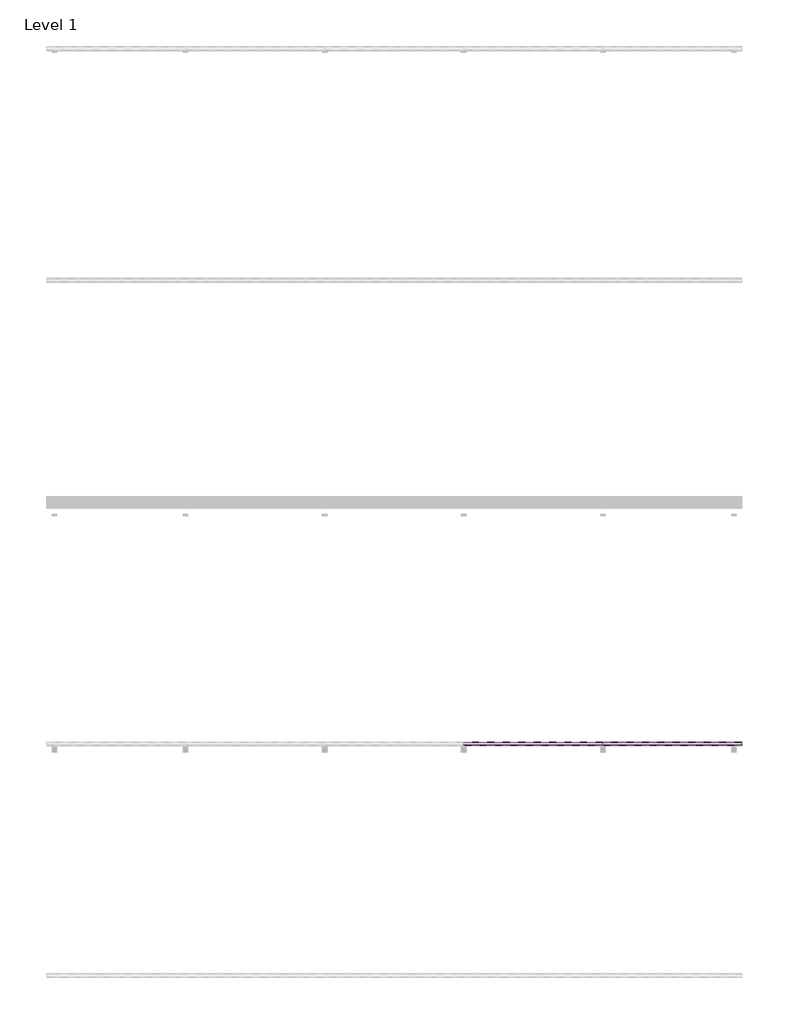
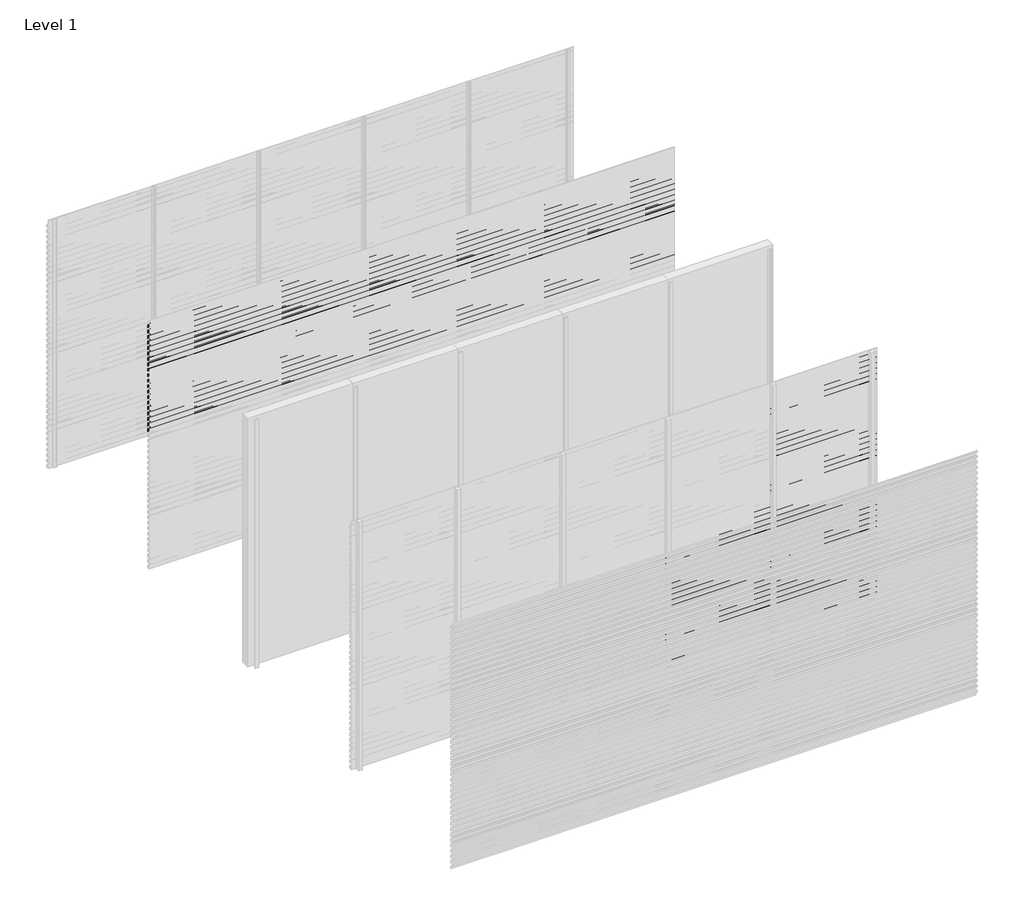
# One storey, part 18 of 33: 88 proxies.
"""IFC4 building model written with IfcOpenShell, lengths in millimetres."""

from ifc_helpers import new_model, si_unit, frame, origin, place, context, project, spatial, polyline, outline, extrude, element, save

model = new_model("IFC4")

# Units and contexts
model_context = context("Model", 3, world=origin())
ifc_project = project(units=[si_unit("LENGTHUNIT", "METRE", prefix="MILLI")], contexts=[model_context])

# Site, building, storey
site = spatial("IfcSite", under=ifc_project)
building = spatial("IfcBuilding", under=site)
storey = spatial("IfcBuildingStorey", under=building, Name="Level 1", Elevation=0.0)

# Proxies
placement = place(None, origin())
element("IfcBuildingElementProxy", 1, Name="Wall Sweeps", at=placement, inside=storey, context=model_context, shape_type="SweptSolid", body=[
    extrude(outline(polyline([(-25967.0, 2930.0), (-25967.0, 2897.0), (-25968.25, 2897.7216933), (-25968.25, 2929.2872415), (-25998.0, 2950.0588647), (-25998.0, 2970.0), (-25996.75, 2970.0), (-25996.75, 2950.7716232), (-25967.0, 2930.0)])), frame((0.0, 0.0, 0.0), z_axis=(1.0, 0.0, 0.0), x_axis=(0.0, 1.0, 0.0)), (0.0, 0.0, 1.0), 6000.0),
])
element("IfcBuildingElementProxy", 2, Name="Wall Sweeps", at=placement, inside=storey, context=model_context, shape_type="SweptSolid", body=[
    extrude(outline(polyline([(-25967.0, 2864.0), (-25967.0, 2831.0), (-25968.25, 2831.7216933), (-25968.25, 2863.2872415), (-25998.0, 2884.0588647), (-25998.0, 2904.0), (-25996.75, 2904.0), (-25996.75, 2884.7716232), (-25967.0, 2864.0)])), frame((0.0, 0.0, 0.0), z_axis=(1.0, 0.0, 0.0), x_axis=(0.0, 1.0, 0.0)), (0.0, 0.0, 1.0), 6000.0),
])
element("IfcBuildingElementProxy", 3, Name="Wall Sweeps", at=placement, inside=storey, context=model_context, shape_type="SweptSolid", body=[
    extrude(outline(polyline([(-25967.0, 2798.0), (-25967.0, 2765.0), (-25968.25, 2765.7216933), (-25968.25, 2797.2872415), (-25998.0, 2818.0588647), (-25998.0, 2838.0), (-25996.75, 2838.0), (-25996.75, 2818.7716232), (-25967.0, 2798.0)])), frame((0.0, 0.0, 0.0), z_axis=(1.0, 0.0, 0.0), x_axis=(0.0, 1.0, 0.0)), (0.0, 0.0, 1.0), 6000.0),
])
element("IfcBuildingElementProxy", 4, Name="Wall Sweeps", at=placement, inside=storey, context=model_context, shape_type="SweptSolid", body=[
    extrude(outline(polyline([(-25967.0, 2732.0), (-25967.0, 2699.0), (-25968.25, 2699.7216933), (-25968.25, 2731.2872415), (-25998.0, 2752.0588647), (-25998.0, 2772.0), (-25996.75, 2772.0), (-25996.75, 2752.7716232), (-25967.0, 2732.0)])), frame((0.0, 0.0, 0.0), z_axis=(1.0, 0.0, 0.0), x_axis=(0.0, 1.0, 0.0)), (0.0, 0.0, 1.0), 6000.0),
])
element("IfcBuildingElementProxy", 5, Name="Wall Sweeps", at=placement, inside=storey, context=model_context, shape_type="SweptSolid", body=[
    extrude(outline(polyline([(-25967.0, 2666.0), (-25967.0, 2633.0), (-25968.25, 2633.7216933), (-25968.25, 2665.2872415), (-25998.0, 2686.0588647), (-25998.0, 2706.0), (-25996.75, 2706.0), (-25996.75, 2686.7716232), (-25967.0, 2666.0)])), frame((0.0, 0.0, 0.0), z_axis=(1.0, 0.0, 0.0), x_axis=(0.0, 1.0, 0.0)), (0.0, 0.0, 1.0), 6000.0),
])
element("IfcBuildingElementProxy", 6, Name="Wall Sweeps", at=placement, inside=storey, context=model_context, shape_type="SweptSolid", body=[
    extrude(outline(polyline([(-25967.0, 2600.0), (-25967.0, 2567.0), (-25968.25, 2567.7216933), (-25968.25, 2599.2872415), (-25998.0, 2620.0588647), (-25998.0, 2640.0), (-25996.75, 2640.0), (-25996.75, 2620.7716232), (-25967.0, 2600.0)])), frame((0.0, 0.0, 0.0), z_axis=(1.0, 0.0, 0.0), x_axis=(0.0, 1.0, 0.0)), (0.0, 0.0, 1.0), 6000.0),
])
element("IfcBuildingElementProxy", 7, Name="Wall Sweeps", at=placement, inside=storey, context=model_context, shape_type="SweptSolid", body=[
    extrude(outline(polyline([(-25967.0, 2534.0), (-25967.0, 2501.0), (-25968.25, 2501.7216933), (-25968.25, 2533.2872415), (-25998.0, 2554.0588647), (-25998.0, 2574.0), (-25996.75, 2574.0), (-25996.75, 2554.7716232), (-25967.0, 2534.0)])), frame((0.0, 0.0, 0.0), z_axis=(1.0, 0.0, 0.0), x_axis=(0.0, 1.0, 0.0)), (0.0, 0.0, 1.0), 6000.0),
])
element("IfcBuildingElementProxy", 8, Name="Wall Sweeps", at=placement, inside=storey, context=model_context, shape_type="SweptSolid", body=[
    extrude(outline(polyline([(-25967.0, 2468.0), (-25967.0, 2435.0), (-25968.25, 2435.7216933), (-25968.25, 2467.2872415), (-25998.0, 2488.0588647), (-25998.0, 2508.0), (-25996.75, 2508.0), (-25996.75, 2488.7716232), (-25967.0, 2468.0)])), frame((0.0, 0.0, 0.0), z_axis=(1.0, 0.0, 0.0), x_axis=(0.0, 1.0, 0.0)), (0.0, 0.0, 1.0), 6000.0),
])
element("IfcBuildingElementProxy", 9, Name="Wall Sweeps", at=placement, inside=storey, context=model_context, shape_type="SweptSolid", body=[
    extrude(outline(polyline([(-25967.0, 2402.0), (-25967.0, 2369.0), (-25968.25, 2369.7216933), (-25968.25, 2401.2872415), (-25998.0, 2422.0588647), (-25998.0, 2442.0), (-25996.75, 2442.0), (-25996.75, 2422.7716232), (-25967.0, 2402.0)])), frame((0.0, 0.0, 0.0), z_axis=(1.0, 0.0, 0.0), x_axis=(0.0, 1.0, 0.0)), (0.0, 0.0, 1.0), 6000.0),
])
element("IfcBuildingElementProxy", 10, Name="Wall Sweeps", at=placement, inside=storey, context=model_context, shape_type="SweptSolid", body=[
    extrude(outline(polyline([(-25967.0, 2336.0), (-25967.0, 2303.0), (-25968.25, 2303.7216933), (-25968.25, 2335.2872415), (-25998.0, 2356.0588647), (-25998.0, 2376.0), (-25996.75, 2376.0), (-25996.75, 2356.7716232), (-25967.0, 2336.0)])), frame((0.0, 0.0, 0.0), z_axis=(1.0, 0.0, 0.0), x_axis=(0.0, 1.0, 0.0)), (0.0, 0.0, 1.0), 6000.0),
])
element("IfcBuildingElementProxy", 11, Name="Wall Sweeps", at=placement, inside=storey, context=model_context, shape_type="SweptSolid", body=[
    extrude(outline(polyline([(-25967.0, 2270.0), (-25967.0, 2237.0), (-25968.25, 2237.7216933), (-25968.25, 2269.2872415), (-25998.0, 2290.0588647), (-25998.0, 2310.0), (-25996.75, 2310.0), (-25996.75, 2290.7716232), (-25967.0, 2270.0)])), frame((0.0, 0.0, 0.0), z_axis=(1.0, 0.0, 0.0), x_axis=(0.0, 1.0, 0.0)), (0.0, 0.0, 1.0), 6000.0),
])
element("IfcBuildingElementProxy", 12, Name="Wall Sweeps", at=placement, inside=storey, context=model_context, shape_type="SweptSolid", body=[
    extrude(outline(polyline([(-25967.0, 2204.0), (-25967.0, 2171.0), (-25968.25, 2171.7216933), (-25968.25, 2203.2872415), (-25998.0, 2224.0588647), (-25998.0, 2244.0), (-25996.75, 2244.0), (-25996.75, 2224.7716232), (-25967.0, 2204.0)])), frame((0.0, 0.0, 0.0), z_axis=(1.0, 0.0, 0.0), x_axis=(0.0, 1.0, 0.0)), (0.0, 0.0, 1.0), 6000.0),
])
element("IfcBuildingElementProxy", 13, Name="Wall Sweeps", at=placement, inside=storey, context=model_context, shape_type="SweptSolid", body=[
    extrude(outline(polyline([(-25967.0, 2138.0), (-25967.0, 2105.0), (-25968.25, 2105.7216933), (-25968.25, 2137.2872415), (-25998.0, 2158.0588647), (-25998.0, 2178.0), (-25996.75, 2178.0), (-25996.75, 2158.7716232), (-25967.0, 2138.0)])), frame((0.0, 0.0, 0.0), z_axis=(1.0, 0.0, 0.0), x_axis=(0.0, 1.0, 0.0)), (0.0, 0.0, 1.0), 6000.0),
])
element("IfcBuildingElementProxy", 14, Name="Wall Sweeps", at=placement, inside=storey, context=model_context, shape_type="SweptSolid", body=[
    extrude(outline(polyline([(-25967.0, 2072.0), (-25967.0, 2039.0), (-25968.25, 2039.7216933), (-25968.25, 2071.2872415), (-25998.0, 2092.0588647), (-25998.0, 2112.0), (-25996.75, 2112.0), (-25996.75, 2092.7716232), (-25967.0, 2072.0)])), frame((0.0, 0.0, 0.0), z_axis=(1.0, 0.0, 0.0), x_axis=(0.0, 1.0, 0.0)), (0.0, 0.0, 1.0), 6000.0),
])
element("IfcBuildingElementProxy", 15, Name="Wall Sweeps", at=placement, inside=storey, context=model_context, shape_type="SweptSolid", body=[
    extrude(outline(polyline([(-25967.0, 2006.0), (-25967.0, 1973.0), (-25968.25, 1973.7216933), (-25968.25, 2005.2872415), (-25998.0, 2026.0588647), (-25998.0, 2046.0), (-25996.75, 2046.0), (-25996.75, 2026.7716232), (-25967.0, 2006.0)])), frame((0.0, 0.0, 0.0), z_axis=(1.0, 0.0, 0.0), x_axis=(0.0, 1.0, 0.0)), (0.0, 0.0, 1.0), 6000.0),
])
element("IfcBuildingElementProxy", 16, Name="Wall Sweeps", at=placement, inside=storey, context=model_context, shape_type="SweptSolid", body=[
    extrude(outline(polyline([(-25967.0, 1940.0), (-25967.0, 1907.0), (-25968.25, 1907.7216933), (-25968.25, 1939.2872415), (-25998.0, 1960.0588647), (-25998.0, 1980.0), (-25996.75, 1980.0), (-25996.75, 1960.7716232), (-25967.0, 1940.0)])), frame((0.0, 0.0, 0.0), z_axis=(1.0, 0.0, 0.0), x_axis=(0.0, 1.0, 0.0)), (0.0, 0.0, 1.0), 6000.0),
])
element("IfcBuildingElementProxy", 17, Name="Wall Sweeps", at=placement, inside=storey, context=model_context, shape_type="SweptSolid", body=[
    extrude(outline(polyline([(-25967.0, 1874.0), (-25967.0, 1841.0), (-25968.25, 1841.7216933), (-25968.25, 1873.2872415), (-25998.0, 1894.0588647), (-25998.0, 1914.0), (-25996.75, 1914.0), (-25996.75, 1894.7716232), (-25967.0, 1874.0)])), frame((0.0, 0.0, 0.0), z_axis=(1.0, 0.0, 0.0), x_axis=(0.0, 1.0, 0.0)), (0.0, 0.0, 1.0), 6000.0),
])
element("IfcBuildingElementProxy", 18, Name="Wall Sweeps", at=placement, inside=storey, context=model_context, shape_type="SweptSolid", body=[
    extrude(outline(polyline([(-25967.0, 1808.0), (-25967.0, 1775.0), (-25968.25, 1775.7216933), (-25968.25, 1807.2872415), (-25998.0, 1828.0588647), (-25998.0, 1848.0), (-25996.75, 1848.0), (-25996.75, 1828.7716232), (-25967.0, 1808.0)])), frame((0.0, 0.0, 0.0), z_axis=(1.0, 0.0, 0.0), x_axis=(0.0, 1.0, 0.0)), (0.0, 0.0, 1.0), 6000.0),
])
element("IfcBuildingElementProxy", 19, Name="Wall Sweeps", at=placement, inside=storey, context=model_context, shape_type="SweptSolid", body=[
    extrude(outline(polyline([(-25967.0, 1742.0), (-25967.0, 1709.0), (-25968.25, 1709.7216933), (-25968.25, 1741.2872415), (-25998.0, 1762.0588647), (-25998.0, 1782.0), (-25996.75, 1782.0), (-25996.75, 1762.7716232), (-25967.0, 1742.0)])), frame((0.0, 0.0, 0.0), z_axis=(1.0, 0.0, 0.0), x_axis=(0.0, 1.0, 0.0)), (0.0, 0.0, 1.0), 6000.0),
])
element("IfcBuildingElementProxy", 20, Name="Wall Sweeps", at=placement, inside=storey, context=model_context, shape_type="SweptSolid", body=[
    extrude(outline(polyline([(-25967.0, 1676.0), (-25967.0, 1643.0), (-25968.25, 1643.7216933), (-25968.25, 1675.2872415), (-25998.0, 1696.0588647), (-25998.0, 1716.0), (-25996.75, 1716.0), (-25996.75, 1696.7716232), (-25967.0, 1676.0)])), frame((0.0, 0.0, 0.0), z_axis=(1.0, 0.0, 0.0), x_axis=(0.0, 1.0, 0.0)), (0.0, 0.0, 1.0), 6000.0),
])
element("IfcBuildingElementProxy", 21, Name="Wall Sweeps", at=placement, inside=storey, context=model_context, shape_type="SweptSolid", body=[
    extrude(outline(polyline([(-29967.0, 1478.0), (-29967.0, 1445.0), (-29968.25, 1445.7216933), (-29968.25, 1477.2872415), (-29998.0, 1498.0588647), (-29998.0, 1518.0), (-29996.75, 1518.0), (-29996.75, 1498.7716232), (-29967.0, 1478.0)])), frame((3600.0, 0.0, 0.0), z_axis=(1.0, 0.0, 0.0), x_axis=(0.0, 1.0, 0.0)), (0.0, 0.0, 1.0), 1200.0),
])
element("IfcBuildingElementProxy", 22, Name="Wall Sweeps", at=placement, inside=storey, context=model_context, shape_type="SweptSolid", body=[
    extrude(outline(polyline([(-29967.0, 1412.0), (-29967.0, 1379.0), (-29968.25, 1379.7216933), (-29968.25, 1411.2872415), (-29998.0, 1432.0588647), (-29998.0, 1452.0), (-29996.75, 1452.0), (-29996.75, 1432.7716232), (-29967.0, 1412.0)])), frame((3600.0, 0.0, 0.0), z_axis=(1.0, 0.0, 0.0), x_axis=(0.0, 1.0, 0.0)), (0.0, 0.0, 1.0), 1200.0),
])
element("IfcBuildingElementProxy", 23, Name="Wall Sweeps", at=placement, inside=storey, context=model_context, shape_type="SweptSolid", body=[
    extrude(outline(polyline([(-29967.0, 1346.0), (-29967.0, 1313.0), (-29968.25, 1313.7216933), (-29968.25, 1345.2872415), (-29998.0, 1366.0588647), (-29998.0, 1386.0), (-29996.75, 1386.0), (-29996.75, 1366.7716232), (-29967.0, 1346.0)])), frame((3600.0, 0.0, 0.0), z_axis=(1.0, 0.0, 0.0), x_axis=(0.0, 1.0, 0.0)), (0.0, 0.0, 1.0), 1200.0),
])
element("IfcBuildingElementProxy", 24, Name="Wall Sweeps", at=placement, inside=storey, context=model_context, shape_type="SweptSolid", body=[
    extrude(outline(polyline([(-29967.0, 1280.0), (-29967.0, 1247.0), (-29968.25, 1247.7216933), (-29968.25, 1279.2872415), (-29998.0, 1300.0588647), (-29998.0, 1320.0), (-29996.75, 1320.0), (-29996.75, 1300.7716232), (-29967.0, 1280.0)])), frame((3600.0, 0.0, 0.0), z_axis=(1.0, 0.0, 0.0), x_axis=(0.0, 1.0, 0.0)), (0.0, 0.0, 1.0), 1200.0),
])
element("IfcBuildingElementProxy", 25, Name="Wall Sweeps", at=placement, inside=storey, context=model_context, shape_type="SweptSolid", body=[
    extrude(outline(polyline([(-29967.0, 1214.0), (-29967.0, 1181.0), (-29968.25, 1181.7216933), (-29968.25, 1213.2872415), (-29998.0, 1234.0588647), (-29998.0, 1254.0), (-29996.75, 1254.0), (-29996.75, 1234.7716232), (-29967.0, 1214.0)])), frame((3600.0, 0.0, 0.0), z_axis=(1.0, 0.0, 0.0), x_axis=(0.0, 1.0, 0.0)), (0.0, 0.0, 1.0), 1200.0),
])
element("IfcBuildingElementProxy", 26, Name="Wall Sweeps", at=placement, inside=storey, context=model_context, shape_type="SweptSolid", body=[
    extrude(outline(polyline([(-29967.0, 1148.0), (-29967.0, 1115.0), (-29968.25, 1115.7216933), (-29968.25, 1147.2872415), (-29998.0, 1168.0588647), (-29998.0, 1188.0), (-29996.75, 1188.0), (-29996.75, 1168.7716232), (-29967.0, 1148.0)])), frame((3600.0, 0.0, 0.0), z_axis=(1.0, 0.0, 0.0), x_axis=(0.0, 1.0, 0.0)), (0.0, 0.0, 1.0), 1200.0),
])
element("IfcBuildingElementProxy", 27, Name="Wall Sweeps", at=placement, inside=storey, context=model_context, shape_type="SweptSolid", body=[
    extrude(outline(polyline([(-29967.0, 1082.0), (-29967.0, 1049.0), (-29968.25, 1049.7216933), (-29968.25, 1081.2872415), (-29998.0, 1102.0588647), (-29998.0, 1122.0), (-29996.75, 1122.0), (-29996.75, 1102.7716232), (-29967.0, 1082.0)])), frame((3600.0, 0.0, 0.0), z_axis=(1.0, 0.0, 0.0), x_axis=(0.0, 1.0, 0.0)), (0.0, 0.0, 1.0), 1200.0),
])
element("IfcBuildingElementProxy", 28, Name="Wall Sweeps", at=placement, inside=storey, context=model_context, shape_type="SweptSolid", body=[
    extrude(outline(polyline([(-29967.0, 1016.0), (-29967.0, 983.0), (-29968.25, 983.7216933), (-29968.25, 1015.2872415), (-29998.0, 1036.0588647), (-29998.0, 1056.0), (-29996.75, 1056.0), (-29996.75, 1036.7716232), (-29967.0, 1016.0)])), frame((3600.0, 0.0, 0.0), z_axis=(1.0, 0.0, 0.0), x_axis=(0.0, 1.0, 0.0)), (0.0, 0.0, 1.0), 1200.0),
])
element("IfcBuildingElementProxy", 29, Name="Wall Sweeps", at=placement, inside=storey, context=model_context, shape_type="SweptSolid", body=[
    extrude(outline(polyline([(-29967.0, 950.0), (-29967.0, 917.0), (-29968.25, 917.7216933), (-29968.25, 949.2872415), (-29998.0, 970.0588647), (-29998.0, 990.0), (-29996.75, 990.0), (-29996.75, 970.7716232), (-29967.0, 950.0)])), frame((3600.0, 0.0, 0.0), z_axis=(1.0, 0.0, 0.0), x_axis=(0.0, 1.0, 0.0)), (0.0, 0.0, 1.0), 1200.0),
])
element("IfcBuildingElementProxy", 30, Name="Wall Sweeps", at=placement, inside=storey, context=model_context, shape_type="SweptSolid", body=[
    extrude(outline(polyline([(-29967.0, 884.0), (-29967.0, 851.0), (-29968.25, 851.7216933), (-29968.25, 883.2872415), (-29998.0, 904.0588647), (-29998.0, 924.0), (-29996.75, 924.0), (-29996.75, 904.7716232), (-29967.0, 884.0)])), frame((3600.0, 0.0, 0.0), z_axis=(1.0, 0.0, 0.0), x_axis=(0.0, 1.0, 0.0)), (0.0, 0.0, 1.0), 1200.0),
])
element("IfcBuildingElementProxy", 31, Name="Wall Sweeps", at=placement, inside=storey, context=model_context, shape_type="SweptSolid", body=[
    extrude(outline(polyline([(-29967.0, 818.0), (-29967.0, 785.0), (-29968.25, 785.7216933), (-29968.25, 817.2872415), (-29998.0, 838.0588647), (-29998.0, 858.0), (-29996.75, 858.0), (-29996.75, 838.7716232), (-29967.0, 818.0)])), frame((3600.0, 0.0, 0.0), z_axis=(1.0, 0.0, 0.0), x_axis=(0.0, 1.0, 0.0)), (0.0, 0.0, 1.0), 1200.0),
])
element("IfcBuildingElementProxy", 32, Name="Wall Sweeps", at=placement, inside=storey, context=model_context, shape_type="SweptSolid", body=[
    extrude(outline(polyline([(-29967.0, 752.0), (-29967.0, 719.0), (-29968.25, 719.7216933), (-29968.25, 751.2872415), (-29998.0, 772.0588647), (-29998.0, 792.0), (-29996.75, 792.0), (-29996.75, 772.7716232), (-29967.0, 752.0)])), frame((3600.0, 0.0, 0.0), z_axis=(1.0, 0.0, 0.0), x_axis=(0.0, 1.0, 0.0)), (0.0, 0.0, 1.0), 1200.0),
])
element("IfcBuildingElementProxy", 33, Name="Wall Sweeps", at=placement, inside=storey, context=model_context, shape_type="SweptSolid", body=[
    extrude(outline(polyline([(-29967.0, 686.0), (-29967.0, 653.0), (-29968.25, 653.7216933), (-29968.25, 685.2872415), (-29998.0, 706.0588647), (-29998.0, 726.0), (-29996.75, 726.0), (-29996.75, 706.7716232), (-29967.0, 686.0)])), frame((3600.0, 0.0, 0.0), z_axis=(1.0, 0.0, 0.0), x_axis=(0.0, 1.0, 0.0)), (0.0, 0.0, 1.0), 1200.0),
])
element("IfcBuildingElementProxy", 34, Name="Wall Sweeps", at=placement, inside=storey, context=model_context, shape_type="SweptSolid", body=[
    extrude(outline(polyline([(-29967.0, 620.0), (-29967.0, 587.0), (-29968.25, 587.7216933), (-29968.25, 619.2872415), (-29998.0, 640.0588647), (-29998.0, 660.0), (-29996.75, 660.0), (-29996.75, 640.7716232), (-29967.0, 620.0)])), frame((3600.0, 0.0, 0.0), z_axis=(1.0, 0.0, 0.0), x_axis=(0.0, 1.0, 0.0)), (0.0, 0.0, 1.0), 1200.0),
])
element("IfcBuildingElementProxy", 35, Name="Wall Sweeps", at=placement, inside=storey, context=model_context, shape_type="SweptSolid", body=[
    extrude(outline(polyline([(-29967.0, 554.0), (-29967.0, 521.0), (-29968.25, 521.7216933), (-29968.25, 553.2872415), (-29998.0, 574.0588647), (-29998.0, 594.0), (-29996.75, 594.0), (-29996.75, 574.7716232), (-29967.0, 554.0)])), frame((3600.0, 0.0, 0.0), z_axis=(1.0, 0.0, 0.0), x_axis=(0.0, 1.0, 0.0)), (0.0, 0.0, 1.0), 1200.0),
])
element("IfcBuildingElementProxy", 36, Name="Wall Sweeps", at=placement, inside=storey, context=model_context, shape_type="SweptSolid", body=[
    extrude(outline(polyline([(-29967.0, 488.0), (-29967.0, 455.0), (-29968.25, 455.7216933), (-29968.25, 487.2872415), (-29998.0, 508.0588647), (-29998.0, 528.0), (-29996.75, 528.0), (-29996.75, 508.7716232), (-29967.0, 488.0)])), frame((3600.0, 0.0, 0.0), z_axis=(1.0, 0.0, 0.0), x_axis=(0.0, 1.0, 0.0)), (0.0, 0.0, 1.0), 1200.0),
])
element("IfcBuildingElementProxy", 37, Name="Wall Sweeps", at=placement, inside=storey, context=model_context, shape_type="SweptSolid", body=[
    extrude(outline(polyline([(-29967.0, 422.0), (-29967.0, 389.0), (-29968.25, 389.7216933), (-29968.25, 421.2872415), (-29998.0, 442.0588647), (-29998.0, 462.0), (-29996.75, 462.0), (-29996.75, 442.7716232), (-29967.0, 422.0)])), frame((3600.0, 0.0, 0.0), z_axis=(1.0, 0.0, 0.0), x_axis=(0.0, 1.0, 0.0)), (0.0, 0.0, 1.0), 1200.0),
])
element("IfcBuildingElementProxy", 38, Name="Wall Sweeps", at=placement, inside=storey, context=model_context, shape_type="SweptSolid", body=[
    extrude(outline(polyline([(-29967.0, 356.0), (-29967.0, 323.0), (-29968.25, 323.7216933), (-29968.25, 355.2872415), (-29998.0, 376.0588647), (-29998.0, 396.0), (-29996.75, 396.0), (-29996.75, 376.7716232), (-29967.0, 356.0)])), frame((3600.0, 0.0, 0.0), z_axis=(1.0, 0.0, 0.0), x_axis=(0.0, 1.0, 0.0)), (0.0, 0.0, 1.0), 1200.0),
])
element("IfcBuildingElementProxy", 39, Name="Wall Sweeps", at=placement, inside=storey, context=model_context, shape_type="SweptSolid", body=[
    extrude(outline(polyline([(-29967.0, 290.0), (-29967.0, 257.0), (-29968.25, 257.7216933), (-29968.25, 289.2872415), (-29998.0, 310.0588647), (-29998.0, 330.0), (-29996.75, 330.0), (-29996.75, 310.7716232), (-29967.0, 290.0)])), frame((3600.0, 0.0, 0.0), z_axis=(1.0, 0.0, 0.0), x_axis=(0.0, 1.0, 0.0)), (0.0, 0.0, 1.0), 1200.0),
])
element("IfcBuildingElementProxy", 40, Name="Wall Sweeps", at=placement, inside=storey, context=model_context, shape_type="SweptSolid", body=[
    extrude(outline(polyline([(-29967.0, 224.0), (-29967.0, 191.0), (-29968.25, 191.7216933), (-29968.25, 223.2872415), (-29998.0, 244.0588647), (-29998.0, 264.0), (-29996.75, 264.0), (-29996.75, 244.7716232), (-29967.0, 224.0)])), frame((3600.0, 0.0, 0.0), z_axis=(1.0, 0.0, 0.0), x_axis=(0.0, 1.0, 0.0)), (0.0, 0.0, 1.0), 1200.0),
])
element("IfcBuildingElementProxy", 41, Name="Wall Sweeps", at=placement, inside=storey, context=model_context, shape_type="SweptSolid", body=[
    extrude(outline(polyline([(-29967.0, 158.0), (-29967.0, 125.0), (-29968.25, 125.7216933), (-29968.25, 157.2872415), (-29998.0, 178.0588647), (-29998.0, 198.0), (-29996.75, 198.0), (-29996.75, 178.7716232), (-29967.0, 158.0)])), frame((3600.0, 0.0, 0.0), z_axis=(1.0, 0.0, 0.0), x_axis=(0.0, 1.0, 0.0)), (0.0, 0.0, 1.0), 1200.0),
])
element("IfcBuildingElementProxy", 42, Name="Wall Sweeps", at=placement, inside=storey, context=model_context, shape_type="SweptSolid", body=[
    extrude(outline(polyline([(-29967.0, 92.0), (-29967.0, 59.0), (-29968.25, 59.7216933), (-29968.25, 91.2872415), (-29998.0, 112.0588647), (-29998.0, 132.0), (-29996.75, 132.0), (-29996.75, 112.7716232), (-29967.0, 92.0)])), frame((3600.0, 0.0, 0.0), z_axis=(1.0, 0.0, 0.0), x_axis=(0.0, 1.0, 0.0)), (0.0, 0.0, 1.0), 1200.0),
])
element("IfcBuildingElementProxy", 43, Name="Wall Sweeps", at=placement, inside=storey, context=model_context, shape_type="SweptSolid", body=[
    extrude(outline(polyline([(-29967.0, 26.0), (-29967.0, -7.0), (-29968.25, -6.2783067), (-29968.25, 25.2872415), (-29998.0, 46.0588647), (-29998.0, 66.0), (-29996.75, 66.0), (-29996.75, 46.7716232), (-29967.0, 26.0)])), frame((3600.0, 0.0, 0.0), z_axis=(1.0, 0.0, 0.0), x_axis=(0.0, 1.0, 0.0)), (0.0, 0.0, 1.0), 1200.0),
])
element("IfcBuildingElementProxy", 44, Name="Wall Sweeps", at=placement, inside=storey, context=model_context, shape_type="SweptSolid", body=[
    extrude(outline(polyline([(-29967.0, 2930.0), (-29967.0, 2897.0), (-29968.25, 2897.7216933), (-29968.25, 2929.2872415), (-29998.0, 2950.0588647), (-29998.0, 2970.0), (-29996.75, 2970.0), (-29996.75, 2950.7716232), (-29967.0, 2930.0)])), frame((4800.0, 0.0, 0.0), z_axis=(1.0, 0.0, 0.0), x_axis=(0.0, 1.0, 0.0)), (0.0, 0.0, 1.0), 1200.0),
])
element("IfcBuildingElementProxy", 45, Name="Wall Sweeps", at=placement, inside=storey, context=model_context, shape_type="SweptSolid", body=[
    extrude(outline(polyline([(-29967.0, 2864.0), (-29967.0, 2831.0), (-29968.25, 2831.7216933), (-29968.25, 2863.2872415), (-29998.0, 2884.0588647), (-29998.0, 2904.0), (-29996.75, 2904.0), (-29996.75, 2884.7716232), (-29967.0, 2864.0)])), frame((4800.0, 0.0, 0.0), z_axis=(1.0, 0.0, 0.0), x_axis=(0.0, 1.0, 0.0)), (0.0, 0.0, 1.0), 1200.0),
])
element("IfcBuildingElementProxy", 46, Name="Wall Sweeps", at=placement, inside=storey, context=model_context, shape_type="SweptSolid", body=[
    extrude(outline(polyline([(-29967.0, 2798.0), (-29967.0, 2765.0), (-29968.25, 2765.7216933), (-29968.25, 2797.2872415), (-29998.0, 2818.0588647), (-29998.0, 2838.0), (-29996.75, 2838.0), (-29996.75, 2818.7716232), (-29967.0, 2798.0)])), frame((4800.0, 0.0, 0.0), z_axis=(1.0, 0.0, 0.0), x_axis=(0.0, 1.0, 0.0)), (0.0, 0.0, 1.0), 1200.0),
])
element("IfcBuildingElementProxy", 47, Name="Wall Sweeps", at=placement, inside=storey, context=model_context, shape_type="SweptSolid", body=[
    extrude(outline(polyline([(-29967.0, 2732.0), (-29967.0, 2699.0), (-29968.25, 2699.7216933), (-29968.25, 2731.2872415), (-29998.0, 2752.0588647), (-29998.0, 2772.0), (-29996.75, 2772.0), (-29996.75, 2752.7716232), (-29967.0, 2732.0)])), frame((4800.0, 0.0, 0.0), z_axis=(1.0, 0.0, 0.0), x_axis=(0.0, 1.0, 0.0)), (0.0, 0.0, 1.0), 1200.0),
])
element("IfcBuildingElementProxy", 48, Name="Wall Sweeps", at=placement, inside=storey, context=model_context, shape_type="SweptSolid", body=[
    extrude(outline(polyline([(-29967.0, 2666.0), (-29967.0, 2633.0), (-29968.25, 2633.7216933), (-29968.25, 2665.2872415), (-29998.0, 2686.0588647), (-29998.0, 2706.0), (-29996.75, 2706.0), (-29996.75, 2686.7716232), (-29967.0, 2666.0)])), frame((4800.0, 0.0, 0.0), z_axis=(1.0, 0.0, 0.0), x_axis=(0.0, 1.0, 0.0)), (0.0, 0.0, 1.0), 1200.0),
])
element("IfcBuildingElementProxy", 49, Name="Wall Sweeps", at=placement, inside=storey, context=model_context, shape_type="SweptSolid", body=[
    extrude(outline(polyline([(-29967.0, 2600.0), (-29967.0, 2567.0), (-29968.25, 2567.7216933), (-29968.25, 2599.2872415), (-29998.0, 2620.0588647), (-29998.0, 2640.0), (-29996.75, 2640.0), (-29996.75, 2620.7716232), (-29967.0, 2600.0)])), frame((4800.0, 0.0, 0.0), z_axis=(1.0, 0.0, 0.0), x_axis=(0.0, 1.0, 0.0)), (0.0, 0.0, 1.0), 1200.0),
])
element("IfcBuildingElementProxy", 50, Name="Wall Sweeps", at=placement, inside=storey, context=model_context, shape_type="SweptSolid", body=[
    extrude(outline(polyline([(-29967.0, 2534.0), (-29967.0, 2501.0), (-29968.25, 2501.7216933), (-29968.25, 2533.2872415), (-29998.0, 2554.0588647), (-29998.0, 2574.0), (-29996.75, 2574.0), (-29996.75, 2554.7716232), (-29967.0, 2534.0)])), frame((4800.0, 0.0, 0.0), z_axis=(1.0, 0.0, 0.0), x_axis=(0.0, 1.0, 0.0)), (0.0, 0.0, 1.0), 1200.0),
])
element("IfcBuildingElementProxy", 51, Name="Wall Sweeps", at=placement, inside=storey, context=model_context, shape_type="SweptSolid", body=[
    extrude(outline(polyline([(-29967.0, 2468.0), (-29967.0, 2435.0), (-29968.25, 2435.7216933), (-29968.25, 2467.2872415), (-29998.0, 2488.0588647), (-29998.0, 2508.0), (-29996.75, 2508.0), (-29996.75, 2488.7716232), (-29967.0, 2468.0)])), frame((4800.0, 0.0, 0.0), z_axis=(1.0, 0.0, 0.0), x_axis=(0.0, 1.0, 0.0)), (0.0, 0.0, 1.0), 1200.0),
])
element("IfcBuildingElementProxy", 52, Name="Wall Sweeps", at=placement, inside=storey, context=model_context, shape_type="SweptSolid", body=[
    extrude(outline(polyline([(-29967.0, 2402.0), (-29967.0, 2369.0), (-29968.25, 2369.7216933), (-29968.25, 2401.2872415), (-29998.0, 2422.0588647), (-29998.0, 2442.0), (-29996.75, 2442.0), (-29996.75, 2422.7716232), (-29967.0, 2402.0)])), frame((4800.0, 0.0, 0.0), z_axis=(1.0, 0.0, 0.0), x_axis=(0.0, 1.0, 0.0)), (0.0, 0.0, 1.0), 1200.0),
])
element("IfcBuildingElementProxy", 53, Name="Wall Sweeps", at=placement, inside=storey, context=model_context, shape_type="SweptSolid", body=[
    extrude(outline(polyline([(-29967.0, 2336.0), (-29967.0, 2303.0), (-29968.25, 2303.7216933), (-29968.25, 2335.2872415), (-29998.0, 2356.0588647), (-29998.0, 2376.0), (-29996.75, 2376.0), (-29996.75, 2356.7716232), (-29967.0, 2336.0)])), frame((4800.0, 0.0, 0.0), z_axis=(1.0, 0.0, 0.0), x_axis=(0.0, 1.0, 0.0)), (0.0, 0.0, 1.0), 1200.0),
])
element("IfcBuildingElementProxy", 54, Name="Wall Sweeps", at=placement, inside=storey, context=model_context, shape_type="SweptSolid", body=[
    extrude(outline(polyline([(-29967.0, 2270.0), (-29967.0, 2237.0), (-29968.25, 2237.7216933), (-29968.25, 2269.2872415), (-29998.0, 2290.0588647), (-29998.0, 2310.0), (-29996.75, 2310.0), (-29996.75, 2290.7716232), (-29967.0, 2270.0)])), frame((4800.0, 0.0, 0.0), z_axis=(1.0, 0.0, 0.0), x_axis=(0.0, 1.0, 0.0)), (0.0, 0.0, 1.0), 1200.0),
])
element("IfcBuildingElementProxy", 55, Name="Wall Sweeps", at=placement, inside=storey, context=model_context, shape_type="SweptSolid", body=[
    extrude(outline(polyline([(-29967.0, 2204.0), (-29967.0, 2171.0), (-29968.25, 2171.7216933), (-29968.25, 2203.2872415), (-29998.0, 2224.0588647), (-29998.0, 2244.0), (-29996.75, 2244.0), (-29996.75, 2224.7716232), (-29967.0, 2204.0)])), frame((4800.0, 0.0, 0.0), z_axis=(1.0, 0.0, 0.0), x_axis=(0.0, 1.0, 0.0)), (0.0, 0.0, 1.0), 1200.0),
])
element("IfcBuildingElementProxy", 56, Name="Wall Sweeps", at=placement, inside=storey, context=model_context, shape_type="SweptSolid", body=[
    extrude(outline(polyline([(-29967.0, 2138.0), (-29967.0, 2105.0), (-29968.25, 2105.7216933), (-29968.25, 2137.2872415), (-29998.0, 2158.0588647), (-29998.0, 2178.0), (-29996.75, 2178.0), (-29996.75, 2158.7716232), (-29967.0, 2138.0)])), frame((4800.0, 0.0, 0.0), z_axis=(1.0, 0.0, 0.0), x_axis=(0.0, 1.0, 0.0)), (0.0, 0.0, 1.0), 1200.0),
])
element("IfcBuildingElementProxy", 57, Name="Wall Sweeps", at=placement, inside=storey, context=model_context, shape_type="SweptSolid", body=[
    extrude(outline(polyline([(-29967.0, 2072.0), (-29967.0, 2039.0), (-29968.25, 2039.7216933), (-29968.25, 2071.2872415), (-29998.0, 2092.0588647), (-29998.0, 2112.0), (-29996.75, 2112.0), (-29996.75, 2092.7716232), (-29967.0, 2072.0)])), frame((4800.0, 0.0, 0.0), z_axis=(1.0, 0.0, 0.0), x_axis=(0.0, 1.0, 0.0)), (0.0, 0.0, 1.0), 1200.0),
])
element("IfcBuildingElementProxy", 58, Name="Wall Sweeps", at=placement, inside=storey, context=model_context, shape_type="SweptSolid", body=[
    extrude(outline(polyline([(-29967.0, 2006.0), (-29967.0, 1973.0), (-29968.25, 1973.7216933), (-29968.25, 2005.2872415), (-29998.0, 2026.0588647), (-29998.0, 2046.0), (-29996.75, 2046.0), (-29996.75, 2026.7716232), (-29967.0, 2006.0)])), frame((4800.0, 0.0, 0.0), z_axis=(1.0, 0.0, 0.0), x_axis=(0.0, 1.0, 0.0)), (0.0, 0.0, 1.0), 1200.0),
])
element("IfcBuildingElementProxy", 59, Name="Wall Sweeps", at=placement, inside=storey, context=model_context, shape_type="SweptSolid", body=[
    extrude(outline(polyline([(-29967.0, 1940.0), (-29967.0, 1907.0), (-29968.25, 1907.7216933), (-29968.25, 1939.2872415), (-29998.0, 1960.0588647), (-29998.0, 1980.0), (-29996.75, 1980.0), (-29996.75, 1960.7716232), (-29967.0, 1940.0)])), frame((4800.0, 0.0, 0.0), z_axis=(1.0, 0.0, 0.0), x_axis=(0.0, 1.0, 0.0)), (0.0, 0.0, 1.0), 1200.0),
])
element("IfcBuildingElementProxy", 60, Name="Wall Sweeps", at=placement, inside=storey, context=model_context, shape_type="SweptSolid", body=[
    extrude(outline(polyline([(-29967.0, 1874.0), (-29967.0, 1841.0), (-29968.25, 1841.7216933), (-29968.25, 1873.2872415), (-29998.0, 1894.0588647), (-29998.0, 1914.0), (-29996.75, 1914.0), (-29996.75, 1894.7716232), (-29967.0, 1874.0)])), frame((4800.0, 0.0, 0.0), z_axis=(1.0, 0.0, 0.0), x_axis=(0.0, 1.0, 0.0)), (0.0, 0.0, 1.0), 1200.0),
])
element("IfcBuildingElementProxy", 61, Name="Wall Sweeps", at=placement, inside=storey, context=model_context, shape_type="SweptSolid", body=[
    extrude(outline(polyline([(-29967.0, 1808.0), (-29967.0, 1775.0), (-29968.25, 1775.7216933), (-29968.25, 1807.2872415), (-29998.0, 1828.0588647), (-29998.0, 1848.0), (-29996.75, 1848.0), (-29996.75, 1828.7716232), (-29967.0, 1808.0)])), frame((4800.0, 0.0, 0.0), z_axis=(1.0, 0.0, 0.0), x_axis=(0.0, 1.0, 0.0)), (0.0, 0.0, 1.0), 1200.0),
])
element("IfcBuildingElementProxy", 62, Name="Wall Sweeps", at=placement, inside=storey, context=model_context, shape_type="SweptSolid", body=[
    extrude(outline(polyline([(-29967.0, 1742.0), (-29967.0, 1709.0), (-29968.25, 1709.7216933), (-29968.25, 1741.2872415), (-29998.0, 1762.0588647), (-29998.0, 1782.0), (-29996.75, 1782.0), (-29996.75, 1762.7716232), (-29967.0, 1742.0)])), frame((4800.0, 0.0, 0.0), z_axis=(1.0, 0.0, 0.0), x_axis=(0.0, 1.0, 0.0)), (0.0, 0.0, 1.0), 1200.0),
])
element("IfcBuildingElementProxy", 63, Name="Wall Sweeps", at=placement, inside=storey, context=model_context, shape_type="SweptSolid", body=[
    extrude(outline(polyline([(-29967.0, 1676.0), (-29967.0, 1643.0), (-29968.25, 1643.7216933), (-29968.25, 1675.2872415), (-29998.0, 1696.0588647), (-29998.0, 1716.0), (-29996.75, 1716.0), (-29996.75, 1696.7716232), (-29967.0, 1676.0)])), frame((4800.0, 0.0, 0.0), z_axis=(1.0, 0.0, 0.0), x_axis=(0.0, 1.0, 0.0)), (0.0, 0.0, 1.0), 1200.0),
])
element("IfcBuildingElementProxy", 64, Name="Wall Sweeps", at=placement, inside=storey, context=model_context, shape_type="SweptSolid", body=[
    extrude(outline(polyline([(-29967.0, 1610.0), (-29967.0, 1577.0), (-29968.25, 1577.7216933), (-29968.25, 1609.2872415), (-29998.0, 1630.0588647), (-29998.0, 1650.0), (-29996.75, 1650.0), (-29996.75, 1630.7716232), (-29967.0, 1610.0)])), frame((4800.0, 0.0, 0.0), z_axis=(1.0, 0.0, 0.0), x_axis=(0.0, 1.0, 0.0)), (0.0, 0.0, 1.0), 1200.0),
])
element("IfcBuildingElementProxy", 65, Name="Wall Sweeps", at=placement, inside=storey, context=model_context, shape_type="SweptSolid", body=[
    extrude(outline(polyline([(-29967.0, 1544.0), (-29967.0, 1511.0), (-29968.25, 1511.7216933), (-29968.25, 1543.2872415), (-29998.0, 1564.0588647), (-29998.0, 1584.0), (-29996.75, 1584.0), (-29996.75, 1564.7716232), (-29967.0, 1544.0)])), frame((4800.0, 0.0, 0.0), z_axis=(1.0, 0.0, 0.0), x_axis=(0.0, 1.0, 0.0)), (0.0, 0.0, 1.0), 1200.0),
])
element("IfcBuildingElementProxy", 66, Name="Wall Sweeps", at=placement, inside=storey, context=model_context, shape_type="SweptSolid", body=[
    extrude(outline(polyline([(-29967.0, 1478.0), (-29967.0, 1445.0), (-29968.25, 1445.7216933), (-29968.25, 1477.2872415), (-29998.0, 1498.0588647), (-29998.0, 1518.0), (-29996.75, 1518.0), (-29996.75, 1498.7716232), (-29967.0, 1478.0)])), frame((4800.0, 0.0, 0.0), z_axis=(1.0, 0.0, 0.0), x_axis=(0.0, 1.0, 0.0)), (0.0, 0.0, 1.0), 1200.0),
])
element("IfcBuildingElementProxy", 67, Name="Wall Sweeps", at=placement, inside=storey, context=model_context, shape_type="SweptSolid", body=[
    extrude(outline(polyline([(-29967.0, 1412.0), (-29967.0, 1379.0), (-29968.25, 1379.7216933), (-29968.25, 1411.2872415), (-29998.0, 1432.0588647), (-29998.0, 1452.0), (-29996.75, 1452.0), (-29996.75, 1432.7716232), (-29967.0, 1412.0)])), frame((4800.0, 0.0, 0.0), z_axis=(1.0, 0.0, 0.0), x_axis=(0.0, 1.0, 0.0)), (0.0, 0.0, 1.0), 1200.0),
])
element("IfcBuildingElementProxy", 68, Name="Wall Sweeps", at=placement, inside=storey, context=model_context, shape_type="SweptSolid", body=[
    extrude(outline(polyline([(-29967.0, 1346.0), (-29967.0, 1313.0), (-29968.25, 1313.7216933), (-29968.25, 1345.2872415), (-29998.0, 1366.0588647), (-29998.0, 1386.0), (-29996.75, 1386.0), (-29996.75, 1366.7716232), (-29967.0, 1346.0)])), frame((4800.0, 0.0, 0.0), z_axis=(1.0, 0.0, 0.0), x_axis=(0.0, 1.0, 0.0)), (0.0, 0.0, 1.0), 1200.0),
])
element("IfcBuildingElementProxy", 69, Name="Wall Sweeps", at=placement, inside=storey, context=model_context, shape_type="SweptSolid", body=[
    extrude(outline(polyline([(-29967.0, 1280.0), (-29967.0, 1247.0), (-29968.25, 1247.7216933), (-29968.25, 1279.2872415), (-29998.0, 1300.0588647), (-29998.0, 1320.0), (-29996.75, 1320.0), (-29996.75, 1300.7716232), (-29967.0, 1280.0)])), frame((4800.0, 0.0, 0.0), z_axis=(1.0, 0.0, 0.0), x_axis=(0.0, 1.0, 0.0)), (0.0, 0.0, 1.0), 1200.0),
])
element("IfcBuildingElementProxy", 70, Name="Wall Sweeps", at=placement, inside=storey, context=model_context, shape_type="SweptSolid", body=[
    extrude(outline(polyline([(-29967.0, 1214.0), (-29967.0, 1181.0), (-29968.25, 1181.7216933), (-29968.25, 1213.2872415), (-29998.0, 1234.0588647), (-29998.0, 1254.0), (-29996.75, 1254.0), (-29996.75, 1234.7716232), (-29967.0, 1214.0)])), frame((4800.0, 0.0, 0.0), z_axis=(1.0, 0.0, 0.0), x_axis=(0.0, 1.0, 0.0)), (0.0, 0.0, 1.0), 1200.0),
])
element("IfcBuildingElementProxy", 71, Name="Wall Sweeps", at=placement, inside=storey, context=model_context, shape_type="SweptSolid", body=[
    extrude(outline(polyline([(-29967.0, 1148.0), (-29967.0, 1115.0), (-29968.25, 1115.7216933), (-29968.25, 1147.2872415), (-29998.0, 1168.0588647), (-29998.0, 1188.0), (-29996.75, 1188.0), (-29996.75, 1168.7716232), (-29967.0, 1148.0)])), frame((4800.0, 0.0, 0.0), z_axis=(1.0, 0.0, 0.0), x_axis=(0.0, 1.0, 0.0)), (0.0, 0.0, 1.0), 1200.0),
])
element("IfcBuildingElementProxy", 72, Name="Wall Sweeps", at=placement, inside=storey, context=model_context, shape_type="SweptSolid", body=[
    extrude(outline(polyline([(-29967.0, 1082.0), (-29967.0, 1049.0), (-29968.25, 1049.7216933), (-29968.25, 1081.2872415), (-29998.0, 1102.0588647), (-29998.0, 1122.0), (-29996.75, 1122.0), (-29996.75, 1102.7716232), (-29967.0, 1082.0)])), frame((4800.0, 0.0, 0.0), z_axis=(1.0, 0.0, 0.0), x_axis=(0.0, 1.0, 0.0)), (0.0, 0.0, 1.0), 1200.0),
])
element("IfcBuildingElementProxy", 73, Name="Wall Sweeps", at=placement, inside=storey, context=model_context, shape_type="SweptSolid", body=[
    extrude(outline(polyline([(-29967.0, 1016.0), (-29967.0, 983.0), (-29968.25, 983.7216933), (-29968.25, 1015.2872415), (-29998.0, 1036.0588647), (-29998.0, 1056.0), (-29996.75, 1056.0), (-29996.75, 1036.7716232), (-29967.0, 1016.0)])), frame((4800.0, 0.0, 0.0), z_axis=(1.0, 0.0, 0.0), x_axis=(0.0, 1.0, 0.0)), (0.0, 0.0, 1.0), 1200.0),
])
element("IfcBuildingElementProxy", 74, Name="Wall Sweeps", at=placement, inside=storey, context=model_context, shape_type="SweptSolid", body=[
    extrude(outline(polyline([(-29967.0, 950.0), (-29967.0, 917.0), (-29968.25, 917.7216933), (-29968.25, 949.2872415), (-29998.0, 970.0588647), (-29998.0, 990.0), (-29996.75, 990.0), (-29996.75, 970.7716232), (-29967.0, 950.0)])), frame((4800.0, 0.0, 0.0), z_axis=(1.0, 0.0, 0.0), x_axis=(0.0, 1.0, 0.0)), (0.0, 0.0, 1.0), 1200.0),
])
element("IfcBuildingElementProxy", 75, Name="Wall Sweeps", at=placement, inside=storey, context=model_context, shape_type="SweptSolid", body=[
    extrude(outline(polyline([(-29967.0, 884.0), (-29967.0, 851.0), (-29968.25, 851.7216933), (-29968.25, 883.2872415), (-29998.0, 904.0588647), (-29998.0, 924.0), (-29996.75, 924.0), (-29996.75, 904.7716232), (-29967.0, 884.0)])), frame((4800.0, 0.0, 0.0), z_axis=(1.0, 0.0, 0.0), x_axis=(0.0, 1.0, 0.0)), (0.0, 0.0, 1.0), 1200.0),
])
element("IfcBuildingElementProxy", 76, Name="Wall Sweeps", at=placement, inside=storey, context=model_context, shape_type="SweptSolid", body=[
    extrude(outline(polyline([(-29967.0, 818.0), (-29967.0, 785.0), (-29968.25, 785.7216933), (-29968.25, 817.2872415), (-29998.0, 838.0588647), (-29998.0, 858.0), (-29996.75, 858.0), (-29996.75, 838.7716232), (-29967.0, 818.0)])), frame((4800.0, 0.0, 0.0), z_axis=(1.0, 0.0, 0.0), x_axis=(0.0, 1.0, 0.0)), (0.0, 0.0, 1.0), 1200.0),
])
element("IfcBuildingElementProxy", 77, Name="Wall Sweeps", at=placement, inside=storey, context=model_context, shape_type="SweptSolid", body=[
    extrude(outline(polyline([(-29967.0, 752.0), (-29967.0, 719.0), (-29968.25, 719.7216933), (-29968.25, 751.2872415), (-29998.0, 772.0588647), (-29998.0, 792.0), (-29996.75, 792.0), (-29996.75, 772.7716232), (-29967.0, 752.0)])), frame((4800.0, 0.0, 0.0), z_axis=(1.0, 0.0, 0.0), x_axis=(0.0, 1.0, 0.0)), (0.0, 0.0, 1.0), 1200.0),
])
element("IfcBuildingElementProxy", 78, Name="Wall Sweeps", at=placement, inside=storey, context=model_context, shape_type="SweptSolid", body=[
    extrude(outline(polyline([(-29967.0, 686.0), (-29967.0, 653.0), (-29968.25, 653.7216933), (-29968.25, 685.2872415), (-29998.0, 706.0588647), (-29998.0, 726.0), (-29996.75, 726.0), (-29996.75, 706.7716232), (-29967.0, 686.0)])), frame((4800.0, 0.0, 0.0), z_axis=(1.0, 0.0, 0.0), x_axis=(0.0, 1.0, 0.0)), (0.0, 0.0, 1.0), 1200.0),
])
element("IfcBuildingElementProxy", 79, Name="Wall Sweeps", at=placement, inside=storey, context=model_context, shape_type="SweptSolid", body=[
    extrude(outline(polyline([(-29967.0, 620.0), (-29967.0, 587.0), (-29968.25, 587.7216933), (-29968.25, 619.2872415), (-29998.0, 640.0588647), (-29998.0, 660.0), (-29996.75, 660.0), (-29996.75, 640.7716232), (-29967.0, 620.0)])), frame((4800.0, 0.0, 0.0), z_axis=(1.0, 0.0, 0.0), x_axis=(0.0, 1.0, 0.0)), (0.0, 0.0, 1.0), 1200.0),
])
element("IfcBuildingElementProxy", 80, Name="Wall Sweeps", at=placement, inside=storey, context=model_context, shape_type="SweptSolid", body=[
    extrude(outline(polyline([(-29967.0, 554.0), (-29967.0, 521.0), (-29968.25, 521.7216933), (-29968.25, 553.2872415), (-29998.0, 574.0588647), (-29998.0, 594.0), (-29996.75, 594.0), (-29996.75, 574.7716232), (-29967.0, 554.0)])), frame((4800.0, 0.0, 0.0), z_axis=(1.0, 0.0, 0.0), x_axis=(0.0, 1.0, 0.0)), (0.0, 0.0, 1.0), 1200.0),
])
element("IfcBuildingElementProxy", 81, Name="Wall Sweeps", at=placement, inside=storey, context=model_context, shape_type="SweptSolid", body=[
    extrude(outline(polyline([(-29967.0, 488.0), (-29967.0, 455.0), (-29968.25, 455.7216933), (-29968.25, 487.2872415), (-29998.0, 508.0588647), (-29998.0, 528.0), (-29996.75, 528.0), (-29996.75, 508.7716232), (-29967.0, 488.0)])), frame((4800.0, 0.0, 0.0), z_axis=(1.0, 0.0, 0.0), x_axis=(0.0, 1.0, 0.0)), (0.0, 0.0, 1.0), 1200.0),
])
element("IfcBuildingElementProxy", 82, Name="Wall Sweeps", at=placement, inside=storey, context=model_context, shape_type="SweptSolid", body=[
    extrude(outline(polyline([(-29967.0, 422.0), (-29967.0, 389.0), (-29968.25, 389.7216933), (-29968.25, 421.2872415), (-29998.0, 442.0588647), (-29998.0, 462.0), (-29996.75, 462.0), (-29996.75, 442.7716232), (-29967.0, 422.0)])), frame((4800.0, 0.0, 0.0), z_axis=(1.0, 0.0, 0.0), x_axis=(0.0, 1.0, 0.0)), (0.0, 0.0, 1.0), 1200.0),
])
element("IfcBuildingElementProxy", 83, Name="Wall Sweeps", at=placement, inside=storey, context=model_context, shape_type="SweptSolid", body=[
    extrude(outline(polyline([(-29967.0, 356.0), (-29967.0, 323.0), (-29968.25, 323.7216933), (-29968.25, 355.2872415), (-29998.0, 376.0588647), (-29998.0, 396.0), (-29996.75, 396.0), (-29996.75, 376.7716232), (-29967.0, 356.0)])), frame((4800.0, 0.0, 0.0), z_axis=(1.0, 0.0, 0.0), x_axis=(0.0, 1.0, 0.0)), (0.0, 0.0, 1.0), 1200.0),
])
element("IfcBuildingElementProxy", 84, Name="Wall Sweeps", at=placement, inside=storey, context=model_context, shape_type="SweptSolid", body=[
    extrude(outline(polyline([(-29967.0, 290.0), (-29967.0, 257.0), (-29968.25, 257.7216933), (-29968.25, 289.2872415), (-29998.0, 310.0588647), (-29998.0, 330.0), (-29996.75, 330.0), (-29996.75, 310.7716232), (-29967.0, 290.0)])), frame((4800.0, 0.0, 0.0), z_axis=(1.0, 0.0, 0.0), x_axis=(0.0, 1.0, 0.0)), (0.0, 0.0, 1.0), 1200.0),
])
element("IfcBuildingElementProxy", 85, Name="Wall Sweeps", at=placement, inside=storey, context=model_context, shape_type="SweptSolid", body=[
    extrude(outline(polyline([(-29967.0, 224.0), (-29967.0, 191.0), (-29968.25, 191.7216933), (-29968.25, 223.2872415), (-29998.0, 244.0588647), (-29998.0, 264.0), (-29996.75, 264.0), (-29996.75, 244.7716232), (-29967.0, 224.0)])), frame((4800.0, 0.0, 0.0), z_axis=(1.0, 0.0, 0.0), x_axis=(0.0, 1.0, 0.0)), (0.0, 0.0, 1.0), 1200.0),
])
element("IfcBuildingElementProxy", 86, Name="Wall Sweeps", at=placement, inside=storey, context=model_context, shape_type="SweptSolid", body=[
    extrude(outline(polyline([(-29967.0, 158.0), (-29967.0, 125.0), (-29968.25, 125.7216933), (-29968.25, 157.2872415), (-29998.0, 178.0588647), (-29998.0, 198.0), (-29996.75, 198.0), (-29996.75, 178.7716232), (-29967.0, 158.0)])), frame((4800.0, 0.0, 0.0), z_axis=(1.0, 0.0, 0.0), x_axis=(0.0, 1.0, 0.0)), (0.0, 0.0, 1.0), 1200.0),
])
element("IfcBuildingElementProxy", 87, Name="Wall Sweeps", at=placement, inside=storey, context=model_context, shape_type="SweptSolid", body=[
    extrude(outline(polyline([(-29967.0, 92.0), (-29967.0, 59.0), (-29968.25, 59.7216933), (-29968.25, 91.2872415), (-29998.0, 112.0588647), (-29998.0, 132.0), (-29996.75, 132.0), (-29996.75, 112.7716232), (-29967.0, 92.0)])), frame((4800.0, 0.0, 0.0), z_axis=(1.0, 0.0, 0.0), x_axis=(0.0, 1.0, 0.0)), (0.0, 0.0, 1.0), 1200.0),
])
element("IfcBuildingElementProxy", 88, Name="Wall Sweeps", at=placement, inside=storey, context=model_context, shape_type="SweptSolid", body=[
    extrude(outline(polyline([(-29967.0, 26.0), (-29967.0, -7.0), (-29968.25, -6.2783067), (-29968.25, 25.2872415), (-29998.0, 46.0588647), (-29998.0, 66.0), (-29996.75, 66.0), (-29996.75, 46.7716232), (-29967.0, 26.0)])), frame((4800.0, 0.0, 0.0), z_axis=(1.0, 0.0, 0.0), x_axis=(0.0, 1.0, 0.0)), (0.0, 0.0, 1.0), 1200.0),
])

save(model, "model.ifc")
